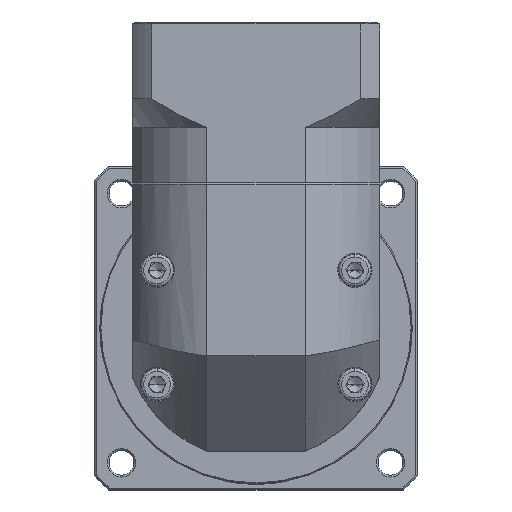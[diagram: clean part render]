
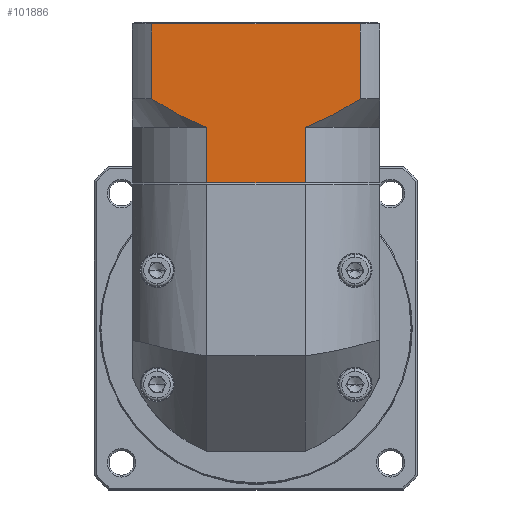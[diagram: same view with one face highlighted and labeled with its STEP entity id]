
A CAD part, top view. The second image highlights one B-rep face of the part: STEP entity #101886.
In plain terms, the highlighted planar face has unit normal (0, 0, 1).
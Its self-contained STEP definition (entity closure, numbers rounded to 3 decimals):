
#474 = B_SPLINE_CURVE_WITH_KNOTS ( 'NONE', 3,
 ( #74494, #95156, #22244, #32265, #105772, #42853, #53400, #126415, #75396, #116753 ),
 .UNSPECIFIED., .F., .F.,
 ( 4, 2, 2, 2, 4 ),
 ( 0.101, 0.103, 0.105, 0.109, 0.117 ),
 .UNSPECIFIED. ) ;
#843 = VECTOR ( 'NONE', #17151, 1000. ) ;
#1858 = CARTESIAN_POINT ( 'NONE',  ( -80.291, 81.212, 37.031 ) ) ;
#3184 = ORIENTED_EDGE ( 'NONE', *, *, #62409, .T. ) ;
#3577 = ORIENTED_EDGE ( 'NONE', *, *, #98307, .T. ) ;
#6498 = DIRECTION ( 'NONE',  ( 1., 0., 0. ) ) ;
#14363 = ORIENTED_EDGE ( 'NONE', *, *, #40209, .T. ) ;
#17151 = DIRECTION ( 'NONE',  ( 0., 1., 0. ) ) ;
#22244 = CARTESIAN_POINT ( 'NONE',  ( -53.029, 81.702, 37.031 ) ) ;
#22476 = CARTESIAN_POINT ( 'NONE',  ( -88.877, 85.208, 37.031 ) ) ;
#31192 = LINE ( 'NONE', #62287, #80432 ) ;
#31916 = LINE ( 'NONE', #110274, #843 ) ;
#32265 = CARTESIAN_POINT ( 'NONE',  ( -51.768, 82.228, 37.031 ) ) ;
#34739 = VERTEX_POINT ( 'NONE', #111823 ) ;
#35486 = VERTEX_POINT ( 'NONE', #74452 ) ;
#38030 = VECTOR ( 'NONE', #79770, 1000. ) ;
#40209 = EDGE_CURVE ( 'NONE', #134013, #60360, #474, .T. ) ;
#41785 = ORIENTED_EDGE ( 'NONE', *, *, #56017, .T. ) ;
#42628 = CARTESIAN_POINT ( 'NONE',  ( -82.829, 82.154, 37.031 ) ) ;
#42853 = CARTESIAN_POINT ( 'NONE',  ( -49.29, 83.352, 37.031 ) ) ;
#46086 = VERTEX_POINT ( 'NONE', #113265 ) ;
#47598 = CARTESIAN_POINT ( 'NONE',  ( -54.311, 81.212, 37.031 ) ) ;
#53400 = CARTESIAN_POINT ( 'NONE',  ( -48.078, 83.957, 37.031 ) ) ;
#55804 = DIRECTION ( 'NONE',  ( 0., 1., 0. ) ) ;
#56017 = EDGE_CURVE ( 'NONE', #86021, #85834, #99255, .T. ) ;
#57921 = LINE ( 'NONE', #58910, #131863 ) ;
#58910 = CARTESIAN_POINT ( 'NONE',  ( -39.915, 81.212, 37.031 ) ) ;
#60360 = VERTEX_POINT ( 'NONE', #105377 ) ;
#60645 = EDGE_CURVE ( 'NONE', #46086, #60360, #57921, .T. ) ;
#61065 = CARTESIAN_POINT ( 'NONE',  ( -94.687, 88.712, 37.031 ) ) ;
#62287 = CARTESIAN_POINT ( 'NONE',  ( -80.291, 81.212, 37.031 ) ) ;
#62409 = EDGE_CURVE ( 'NONE', #68397, #34739, #127485, .T. ) ;
#68397 = VERTEX_POINT ( 'NONE', #61065 ) ;
#68947 = VECTOR ( 'NONE', #98183, 1000. ) ;
#69436 = DIRECTION ( 'NONE',  ( 0., -1., 0. ) ) ;
#71032 = CARTESIAN_POINT ( 'NONE',  ( -99.801, 108.412, 37.031 ) ) ;
#71299 = VECTOR ( 'NONE', #6498, 1000. ) ;
#74452 = CARTESIAN_POINT ( 'NONE',  ( -94.687, 108.412, 37.031 ) ) ;
#74494 = CARTESIAN_POINT ( 'NONE',  ( -54.311, 81.212, 37.031 ) ) ;
#74713 = CARTESIAN_POINT ( 'NONE',  ( -94.687, 88.712, 37.031 ) ) ;
#75396 = CARTESIAN_POINT ( 'NONE',  ( -42.183, 87.25, 37.031 ) ) ;
#75619 = CARTESIAN_POINT ( 'NONE',  ( -54.311, 66.712, 37.031 ) ) ;
#77743 = EDGE_CURVE ( 'NONE', #86021, #34739, #31192, .T. ) ;
#77941 = ORIENTED_EDGE ( 'NONE', *, *, #89228, .F. ) ;
#78271 = FACE_OUTER_BOUND ( 'NONE', #100496, .T. ) ;
#79770 = DIRECTION ( 'NONE',  ( -1., 0., 0. ) ) ;
#80432 = VECTOR ( 'NONE', #81599, 1000. ) ;
#81599 = DIRECTION ( 'NONE',  ( 0., 1., 0. ) ) ;
#85258 = CARTESIAN_POINT ( 'NONE',  ( -90.063, 85.879, 37.031 ) ) ;
#85834 = VERTEX_POINT ( 'NONE', #75619 ) ;
#86021 = VERTEX_POINT ( 'NONE', #92524 ) ;
#86125 = AXIS2_PLACEMENT_3D ( 'NONE', #107260, #128813, #55804 ) ;
#89228 = EDGE_CURVE ( 'NONE', #134013, #85834, #96887, .T. ) ;
#92524 = CARTESIAN_POINT ( 'NONE',  ( -80.291, 66.712, 37.031 ) ) ;
#95156 = CARTESIAN_POINT ( 'NONE',  ( -53.668, 81.45, 37.031 ) ) ;
#96887 = LINE ( 'NONE', #131250, #68947 ) ;
#98183 = DIRECTION ( 'NONE',  ( 0., -1., 0. ) ) ;
#98307 = EDGE_CURVE ( 'NONE', #46086, #35486, #125085, .T. ) ;
#99075 = ORIENTED_EDGE ( 'NONE', *, *, #130415, .F. ) ;
#99255 = LINE ( 'NONE', #123436, #71299 ) ;
#100496 = EDGE_LOOP ( 'NONE', ( #127311, #3577, #99075, #3184, #104177, #41785, #77941, #14363 ) ) ;
#101886 = ADVANCED_FACE ( 'NONE', ( #78271 ), #128354, .F. ) ;
#104177 = ORIENTED_EDGE ( 'NONE', *, *, #77743, .F. ) ;
#105115 = CARTESIAN_POINT ( 'NONE',  ( -85.281, 83.298, 37.031 ) ) ;
#105377 = CARTESIAN_POINT ( 'NONE',  ( -39.915, 88.712, 37.031 ) ) ;
#105540 = CARTESIAN_POINT ( 'NONE',  ( -93.549, 87.978, 37.031 ) ) ;
#105772 = CARTESIAN_POINT ( 'NONE',  ( -51.144, 82.502, 37.031 ) ) ;
#107260 = CARTESIAN_POINT ( 'NONE',  ( -99.801, 108.912, 37.031 ) ) ;
#110274 = CARTESIAN_POINT ( 'NONE',  ( -94.687, 81.212, 37.031 ) ) ;
#111823 = CARTESIAN_POINT ( 'NONE',  ( -80.291, 81.212, 37.031 ) ) ;
#113265 = CARTESIAN_POINT ( 'NONE',  ( -39.915, 108.412, 37.031 ) ) ;
#116753 = CARTESIAN_POINT ( 'NONE',  ( -39.915, 88.712, 37.031 ) ) ;
#123436 = CARTESIAN_POINT ( 'NONE',  ( -99.801, 66.712, 37.031 ) ) ;
#125085 = LINE ( 'NONE', #71032, #38030 ) ;
#126415 = CARTESIAN_POINT ( 'NONE',  ( -44.497, 85.862, 37.031 ) ) ;
#127311 = ORIENTED_EDGE ( 'NONE', *, *, #60645, .F. ) ;
#127485 = B_SPLINE_CURVE_WITH_KNOTS ( 'NONE', 3,
 ( #74713, #105540, #127997, #85258, #22476, #105115, #42628, #1858 ),
 .UNSPECIFIED., .F., .F.,
 ( 4, 2, 2, 4 ),
 ( 0.058, 0.062, 0.066, 0.074 ),
 .UNSPECIFIED. ) ;
#127997 = CARTESIAN_POINT ( 'NONE',  ( -92.398, 87.263, 37.031 ) ) ;
#128354 = PLANE ( 'NONE',  #86125 ) ;
#128813 = DIRECTION ( 'NONE',  ( 0., 0., -1. ) ) ;
#130415 = EDGE_CURVE ( 'NONE', #68397, #35486, #31916, .T. ) ;
#131250 = CARTESIAN_POINT ( 'NONE',  ( -54.311, 81.212, 37.031 ) ) ;
#131863 = VECTOR ( 'NONE', #69436, 1000. ) ;
#134013 = VERTEX_POINT ( 'NONE', #47598 ) ;
